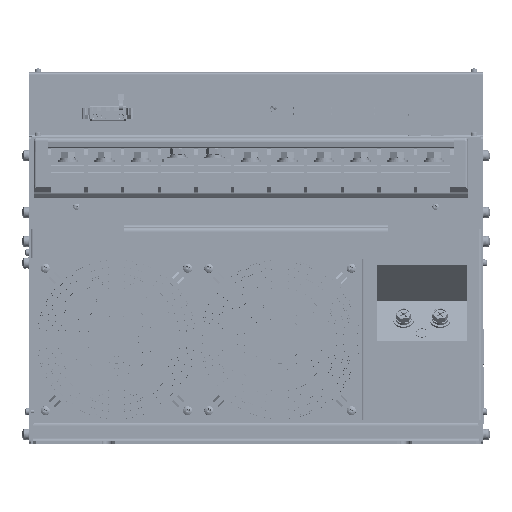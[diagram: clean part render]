
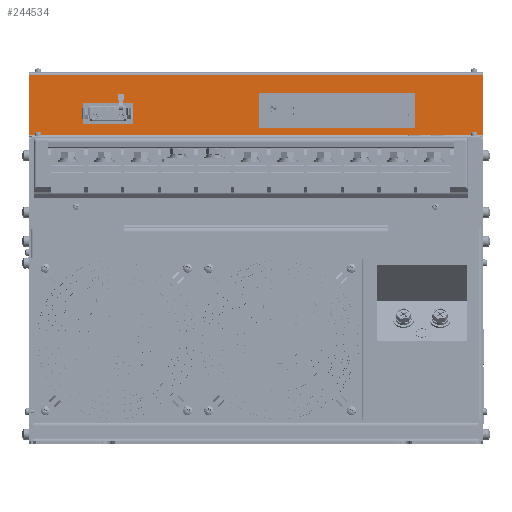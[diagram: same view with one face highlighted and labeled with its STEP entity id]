
A CAD part, front view. The second image highlights one B-rep face of the part: STEP entity #244534.
In plain terms, the highlighted planar face has unit normal (0, -1, 0).
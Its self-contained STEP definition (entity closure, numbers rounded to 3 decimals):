
#9317 = ORIENTED_EDGE ( 'NONE', *, *, #290795, .F. ) ;
#10612 = LINE ( 'NONE', #121236, #114576 ) ;
#16727 = CARTESIAN_POINT ( 'NONE',  ( -198.6, 74.5, 250. ) ) ;
#18876 = CARTESIAN_POINT ( 'NONE',  ( -198.6, 74.5, 302.4 ) ) ;
#20001 = EDGE_CURVE ( 'NONE', #135924, #182479, #388868, .T. ) ;
#30948 = CARTESIAN_POINT ( 'NONE',  ( -151.6, 74.5, 277.6 ) ) ;
#32545 = CARTESIAN_POINT ( 'NONE',  ( 2.3, 74.5, 256.2 ) ) ;
#36268 = CARTESIAN_POINT ( 'NONE',  ( 139.3, 74.5, 286.2 ) ) ;
#38463 = CARTESIAN_POINT ( 'NONE',  ( 139.3, 74.5, 286.2 ) ) ;
#38514 = LINE ( 'NONE', #36268, #172893 ) ;
#62645 = EDGE_LOOP ( 'NONE', ( #221756, #99701, #360499, #114413 ) ) ;
#73079 = EDGE_CURVE ( 'NONE', #310014, #489386, #354660, .T. ) ;
#73538 = DIRECTION ( 'NONE',  ( 1., 0., 0. ) ) ;
#76517 = CARTESIAN_POINT ( 'NONE',  ( 2.3, 74.5, 286.2 ) ) ;
#76689 = CARTESIAN_POINT ( 'NONE',  ( 198.6, 74.5, 302.4 ) ) ;
#77504 = CARTESIAN_POINT ( 'NONE',  ( -107.6, 74.5, 277.6 ) ) ;
#79895 = CARTESIAN_POINT ( 'NONE',  ( 198.6, 74.5, 302.4 ) ) ;
#82508 = VECTOR ( 'NONE', #150510, 1000. ) ;
#84981 = VERTEX_POINT ( 'NONE', #464322 ) ;
#97709 = EDGE_CURVE ( 'NONE', #182479, #318122, #38514, .T. ) ;
#99701 = ORIENTED_EDGE ( 'NONE', *, *, #364043, .F. ) ;
#100499 = DIRECTION ( 'NONE',  ( -1., 0., 0. ) ) ;
#114166 = DIRECTION ( 'NONE',  ( 1., 0., 0. ) ) ;
#114413 = ORIENTED_EDGE ( 'NONE', *, *, #495419, .F. ) ;
#114576 = VECTOR ( 'NONE', #394165, 1000. ) ;
#119134 = ORIENTED_EDGE ( 'NONE', *, *, #97709, .F. ) ;
#120132 = VECTOR ( 'NONE', #189689, 1000. ) ;
#121236 = CARTESIAN_POINT ( 'NONE',  ( -198.6, 74.5, 302.4 ) ) ;
#123750 = LINE ( 'NONE', #303944, #502146 ) ;
#125164 = FACE_OUTER_BOUND ( 'NONE', #62645, .T. ) ;
#132493 = ORIENTED_EDGE ( 'NONE', *, *, #491749, .F. ) ;
#134781 = CARTESIAN_POINT ( 'NONE',  ( 0., 74.5, 249. ) ) ;
#135924 = VERTEX_POINT ( 'NONE', #489706 ) ;
#138553 = LINE ( 'NONE', #79895, #309290 ) ;
#141420 = CARTESIAN_POINT ( 'NONE',  ( -107.6, 74.5, 259.6 ) ) ;
#142615 = CARTESIAN_POINT ( 'NONE',  ( 198.6, 74.5, 250. ) ) ;
#150510 = DIRECTION ( 'NONE',  ( 0., 0., -1. ) ) ;
#172893 = VECTOR ( 'NONE', #309332, 1000. ) ;
#178329 = DIRECTION ( 'NONE',  ( 0., 0., 1. ) ) ;
#182479 = VERTEX_POINT ( 'NONE', #486925 ) ;
#189689 = DIRECTION ( 'NONE',  ( 1., 0., 0. ) ) ;
#190864 = EDGE_LOOP ( 'NONE', ( #451097, #9317, #426042, #132493 ) ) ;
#193939 = CARTESIAN_POINT ( 'NONE',  ( 2.3, 74.5, 286.2 ) ) ;
#211541 = LINE ( 'NONE', #30948, #82508 ) ;
#216599 = PLANE ( 'NONE',  #284509 ) ;
#217519 = CARTESIAN_POINT ( 'NONE',  ( -107.6, 74.5, 277.6 ) ) ;
#221605 = LINE ( 'NONE', #76517, #478083 ) ;
#221756 = ORIENTED_EDGE ( 'NONE', *, *, #329054, .F. ) ;
#227731 = VERTEX_POINT ( 'NONE', #16727 ) ;
#244534 = ADVANCED_FACE ( 'NONE', ( #125164, #302293, #399756 ), #216599, .T. ) ;
#260370 = ORIENTED_EDGE ( 'NONE', *, *, #352270, .F. ) ;
#262393 = LINE ( 'NONE', #142615, #469913 ) ;
#262545 = VECTOR ( 'NONE', #263040, 1000. ) ;
#263040 = DIRECTION ( 'NONE',  ( 0., 0., -1. ) ) ;
#264697 = CARTESIAN_POINT ( 'NONE',  ( 198.6, 74.5, 249. ) ) ;
#264859 = ORIENTED_EDGE ( 'NONE', *, *, #490358, .F. ) ;
#284509 = AXIS2_PLACEMENT_3D ( 'NONE', #134781, #373487, #100499 ) ;
#290795 = EDGE_CURVE ( 'NONE', #489386, #415604, #354677, .T. ) ;
#302293 = FACE_BOUND ( 'NONE', #190864, .T. ) ;
#303944 = CARTESIAN_POINT ( 'NONE',  ( -151.6, 74.5, 259.6 ) ) ;
#305738 = VECTOR ( 'NONE', #178329, 1000. ) ;
#306167 = VERTEX_POINT ( 'NONE', #497063 ) ;
#309290 = VECTOR ( 'NONE', #114166, 1000. ) ;
#309332 = DIRECTION ( 'NONE',  ( 0., 0., 1. ) ) ;
#310014 = VERTEX_POINT ( 'NONE', #141420 ) ;
#317248 = DIRECTION ( 'NONE',  ( 0., 0., -1. ) ) ;
#318122 = VERTEX_POINT ( 'NONE', #38463 ) ;
#324314 = VECTOR ( 'NONE', #490025, 1000. ) ;
#327550 = VERTEX_POINT ( 'NONE', #193939 ) ;
#329054 = EDGE_CURVE ( 'NONE', #227731, #406305, #10612, .T. ) ;
#337476 = EDGE_CURVE ( 'NONE', #415604, #84981, #211541, .T. ) ;
#344478 = DIRECTION ( 'NONE',  ( -1., 0., 0. ) ) ;
#352270 = EDGE_CURVE ( 'NONE', #327550, #135924, #365296, .T. ) ;
#354660 = LINE ( 'NONE', #217519, #305738 ) ;
#354677 = LINE ( 'NONE', #495034, #324314 ) ;
#358166 = CARTESIAN_POINT ( 'NONE',  ( 2.3, 74.5, 286.2 ) ) ;
#360499 = ORIENTED_EDGE ( 'NONE', *, *, #482870, .F. ) ;
#364043 = EDGE_CURVE ( 'NONE', #306167, #227731, #262393, .T. ) ;
#365296 = LINE ( 'NONE', #358166, #420262 ) ;
#365407 = EDGE_LOOP ( 'NONE', ( #260370, #264859, #119134, #370104 ) ) ;
#370104 = ORIENTED_EDGE ( 'NONE', *, *, #20001, .F. ) ;
#373487 = DIRECTION ( 'NONE',  ( 0., -1., 0. ) ) ;
#388868 = LINE ( 'NONE', #32545, #120132 ) ;
#390673 = LINE ( 'NONE', #264697, #262545 ) ;
#394165 = DIRECTION ( 'NONE',  ( 0., 0., 1. ) ) ;
#399756 = FACE_BOUND ( 'NONE', #365407, .T. ) ;
#406305 = VERTEX_POINT ( 'NONE', #18876 ) ;
#412185 = DIRECTION ( 'NONE',  ( -1., 0., 0. ) ) ;
#415604 = VERTEX_POINT ( 'NONE', #467159 ) ;
#420262 = VECTOR ( 'NONE', #317248, 1000. ) ;
#426042 = ORIENTED_EDGE ( 'NONE', *, *, #73079, .F. ) ;
#429625 = VERTEX_POINT ( 'NONE', #76689 ) ;
#451097 = ORIENTED_EDGE ( 'NONE', *, *, #337476, .F. ) ;
#464322 = CARTESIAN_POINT ( 'NONE',  ( -151.6, 74.5, 259.6 ) ) ;
#467159 = CARTESIAN_POINT ( 'NONE',  ( -151.6, 74.5, 277.6 ) ) ;
#469913 = VECTOR ( 'NONE', #412185, 1000. ) ;
#478083 = VECTOR ( 'NONE', #344478, 1000. ) ;
#482870 = EDGE_CURVE ( 'NONE', #429625, #306167, #390673, .T. ) ;
#486925 = CARTESIAN_POINT ( 'NONE',  ( 139.3, 74.5, 256.2 ) ) ;
#489386 = VERTEX_POINT ( 'NONE', #77504 ) ;
#489706 = CARTESIAN_POINT ( 'NONE',  ( 2.3, 74.5, 256.2 ) ) ;
#490025 = DIRECTION ( 'NONE',  ( -1., 0., 0. ) ) ;
#490358 = EDGE_CURVE ( 'NONE', #318122, #327550, #221605, .T. ) ;
#491749 = EDGE_CURVE ( 'NONE', #84981, #310014, #123750, .T. ) ;
#495034 = CARTESIAN_POINT ( 'NONE',  ( -151.6, 74.5, 277.6 ) ) ;
#495419 = EDGE_CURVE ( 'NONE', #406305, #429625, #138553, .T. ) ;
#497063 = CARTESIAN_POINT ( 'NONE',  ( 198.6, 74.5, 250. ) ) ;
#502146 = VECTOR ( 'NONE', #73538, 1000. ) ;
